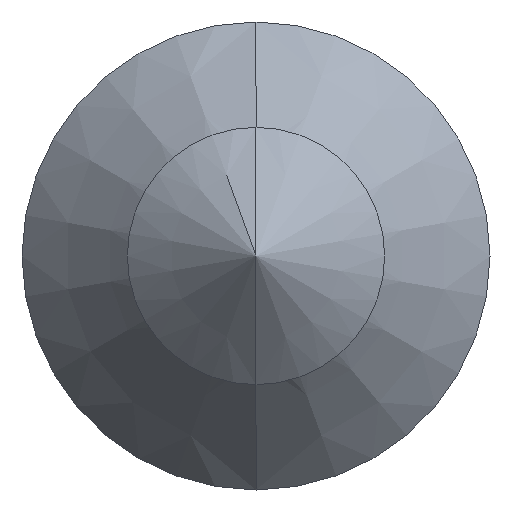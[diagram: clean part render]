
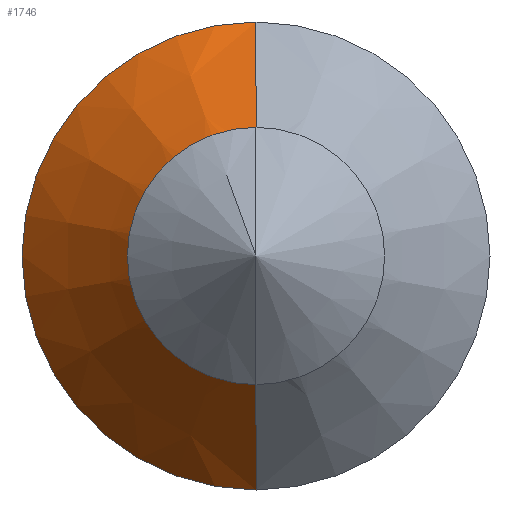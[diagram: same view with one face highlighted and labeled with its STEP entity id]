
A CAD part, left-side view. The second image highlights one B-rep face of the part: STEP entity #1746.
In plain terms, the highlighted conical face has half-angle 41.411 degrees and reference radius 2 mm.
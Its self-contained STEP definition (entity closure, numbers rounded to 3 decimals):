
#2 = LINE ( 'NONE', #1006, #388 ) ;
#16 = VERTEX_POINT ( 'NONE', #2052 ) ;
#28 = VERTEX_POINT ( 'NONE', #1275 ) ;
#49 = EDGE_CURVE ( 'NONE', #2066, #576, #2, .T. ) ;
#198 = ORIENTED_EDGE ( 'NONE', *, *, #49, .F. ) ;
#210 = DIRECTION ( 'NONE',  ( 0.75, 0., 0.661 ) ) ;
#381 = CIRCLE ( 'NONE', #1728, 2. ) ;
#388 = VECTOR ( 'NONE', #1637, 1000. ) ;
#491 = EDGE_CURVE ( 'NONE', #16, #2066, #1235, .T. ) ;
#508 = CARTESIAN_POINT ( 'NONE',  ( -4.503, 0., -0.9 ) ) ;
#576 = VERTEX_POINT ( 'NONE', #1657 ) ;
#578 = EDGE_CURVE ( 'NONE', #16, #28, #1471, .T. ) ;
#717 = DIRECTION ( 'NONE',  ( 0., 0., -1. ) ) ;
#771 = AXIS2_PLACEMENT_3D ( 'NONE', #1691, #911, #1247 ) ;
#874 = VECTOR ( 'NONE', #210, 1000. ) ;
#911 = DIRECTION ( 'NONE',  ( -1., 0., 0. ) ) ;
#1006 = CARTESIAN_POINT ( 'NONE',  ( -3.255, 0., -2. ) ) ;
#1070 = CONICAL_SURFACE ( 'NONE', #1195, 2., 0.723 ) ;
#1152 = CARTESIAN_POINT ( 'NONE',  ( -3.255, 0., 2. ) ) ;
#1195 = AXIS2_PLACEMENT_3D ( 'NONE', #2051, #2158, #717 ) ;
#1235 = CIRCLE ( 'NONE', #771, 0.9 ) ;
#1247 = DIRECTION ( 'NONE',  ( 0., 0., 1. ) ) ;
#1275 = CARTESIAN_POINT ( 'NONE',  ( -3.255, 0., 2. ) ) ;
#1380 = CARTESIAN_POINT ( 'NONE',  ( -3.255, 0., 0. ) ) ;
#1471 = LINE ( 'NONE', #1152, #874 ) ;
#1476 = DIRECTION ( 'NONE',  ( 0., 0., 1. ) ) ;
#1572 = DIRECTION ( 'NONE',  ( -1., 0., 0. ) ) ;
#1637 = DIRECTION ( 'NONE',  ( 0.75, 0., -0.661 ) ) ;
#1657 = CARTESIAN_POINT ( 'NONE',  ( -3.255, 0., -2. ) ) ;
#1691 = CARTESIAN_POINT ( 'NONE',  ( -4.503, 0., 0. ) ) ;
#1728 = AXIS2_PLACEMENT_3D ( 'NONE', #1380, #1572, #1476 ) ;
#1746 = ADVANCED_FACE ( 'NONE', ( #1780 ), #1070, .T. ) ;
#1780 = FACE_OUTER_BOUND ( 'NONE', #2100, .T. ) ;
#1836 = ORIENTED_EDGE ( 'NONE', *, *, #578, .T. ) ;
#1951 = EDGE_CURVE ( 'NONE', #28, #576, #381, .T. ) ;
#2051 = CARTESIAN_POINT ( 'NONE',  ( -3.255, 0., 0. ) ) ;
#2052 = CARTESIAN_POINT ( 'NONE',  ( -4.503, 0., 0.9 ) ) ;
#2066 = VERTEX_POINT ( 'NONE', #508 ) ;
#2072 = ORIENTED_EDGE ( 'NONE', *, *, #1951, .T. ) ;
#2100 = EDGE_LOOP ( 'NONE', ( #2134, #1836, #2072, #198 ) ) ;
#2134 = ORIENTED_EDGE ( 'NONE', *, *, #491, .F. ) ;
#2158 = DIRECTION ( 'NONE',  ( 1., 0., 0. ) ) ;
